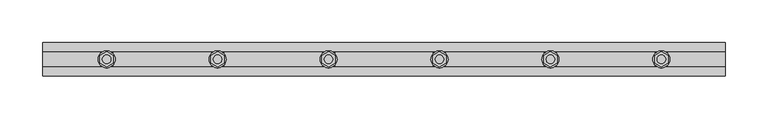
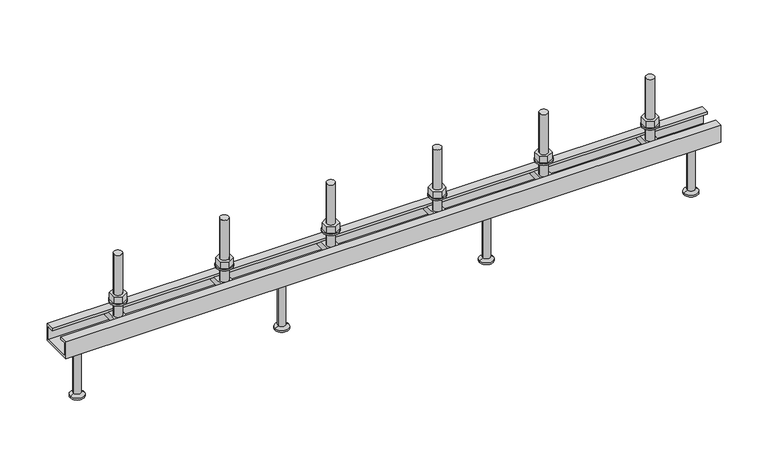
"""IFC4 building model written with IfcOpenShell, lengths in millimetres: fastener geometry, JTA-W JORDAHL® AnchorChannels : JTA-W L=800 mm."""

from ifc_helpers import new_model, si_unit, point, frame, frame_2d, origin, place, context, project, spatial, polyline, circle_curve, trimmed, segment, composite_curve, outline, extrude, source, transform, mapped, element, save
from ifc_brep_helpers import plane_surface, cylinder_surface, revolved_surface, advanced_brep


def fastener_f3e18b2c(model_context):
    return source(origin(), model_context, "Body", "SolidModel", [
        extrude(outline(polyline([(595.0, 9.2376043), (603.0, 4.6188022), (603.0, -4.6188022), (595.0, -9.2376043), (587.0, -4.6188022), (587.0, 4.6188022), (595.0, 9.2376043)]), holes=[composite_curve([segment(trimmed(circle_curve(frame_2d((595.0, 0.0)), 5.0), [point((590.0, 0.0))], [point((600.0, 0.0))], True, "CARTESIAN"), True, "CONTINUOUS"), segment(trimmed(circle_curve(frame_2d((595.0, 0.0)), 5.0), [point((600.0, 0.0))], [point((590.0, 0.0))], True, "CARTESIAN"), True, "CONTINUOUS")], self_intersect=False)]), frame((0.0, 0.0, 17.0), z_axis=(0.0, 0.0, 1.0), x_axis=(1.0, 0.0, 0.0)), (0.0, 0.0, 1.0), 8.4),
        extrude(outline(composite_curve([segment(trimmed(circle_curve(frame_2d((595.0, 0.0)), 10.0), [point((585.0, 0.0))], [point((605.0, 0.0))], False, "CARTESIAN"), True, "CONTINUOUS"), segment(trimmed(circle_curve(frame_2d((595.0, 0.0)), 10.0), [point((605.0, 0.0))], [point((585.0, 0.0))], False, "CARTESIAN"), True, "CONTINUOUS")], self_intersect=False), holes=[composite_curve([segment(trimmed(circle_curve(frame_2d((595.0, 0.0)), 5.25), [point((589.75, 0.0))], [point((600.25, 0.0))], True, "CARTESIAN"), True, "CONTINUOUS"), segment(trimmed(circle_curve(frame_2d((595.0, 0.0)), 5.25), [point((600.25, 0.0))], [point((589.75, 0.0))], True, "CARTESIAN"), True, "CONTINUOUS")], self_intersect=False)]), frame((0.0, 0.0, 15.0), z_axis=(0.0, 0.0, 1.0), x_axis=(1.0, 0.0, 0.0)), (0.0, 0.0, 1.0), 2.0),
        extrude(outline(polyline([(465.0, 9.2376043), (473.0, 4.6188022), (473.0, -4.6188022), (465.0, -9.2376043), (457.0, -4.6188022), (457.0, 4.6188022), (465.0, 9.2376043)]), holes=[composite_curve([segment(trimmed(circle_curve(frame_2d((465.0, 0.0)), 5.0), [point((460.0, 0.0))], [point((470.0, 0.0))], True, "CARTESIAN"), True, "CONTINUOUS"), segment(trimmed(circle_curve(frame_2d((465.0, 0.0)), 5.0), [point((470.0, 0.0))], [point((460.0, 0.0))], True, "CARTESIAN"), True, "CONTINUOUS")], self_intersect=False)]), frame((0.0, 0.0, 17.0), z_axis=(0.0, 0.0, 1.0), x_axis=(1.0, 0.0, 0.0)), (0.0, 0.0, 1.0), 8.4),
        extrude(outline(composite_curve([segment(trimmed(circle_curve(frame_2d((465.0, 0.0)), 10.0), [point((455.0, 0.0))], [point((475.0, 0.0))], False, "CARTESIAN"), True, "CONTINUOUS"), segment(trimmed(circle_curve(frame_2d((465.0, 0.0)), 10.0), [point((475.0, 0.0))], [point((455.0, 0.0))], False, "CARTESIAN"), True, "CONTINUOUS")], self_intersect=False), holes=[composite_curve([segment(trimmed(circle_curve(frame_2d((465.0, 0.0)), 5.25), [point((459.75, 0.0))], [point((470.25, 0.0))], True, "CARTESIAN"), True, "CONTINUOUS"), segment(trimmed(circle_curve(frame_2d((465.0, 0.0)), 5.25), [point((470.25, 0.0))], [point((459.75, 0.0))], True, "CARTESIAN"), True, "CONTINUOUS")], self_intersect=False)]), frame((0.0, 0.0, 15.0), z_axis=(0.0, 0.0, 1.0), x_axis=(1.0, 0.0, 0.0)), (0.0, 0.0, 1.0), 2.0),
        extrude(outline(polyline([(335.0, 9.2376043), (343.0, 4.6188022), (343.0, -4.6188022), (335.0, -9.2376043), (327.0, -4.6188022), (327.0, 4.6188022), (335.0, 9.2376043)]), holes=[composite_curve([segment(trimmed(circle_curve(frame_2d((335.0, 0.0)), 5.0), [point((330.0, 0.0))], [point((340.0, 0.0))], True, "CARTESIAN"), True, "CONTINUOUS"), segment(trimmed(circle_curve(frame_2d((335.0, 0.0)), 5.0), [point((340.0, 0.0))], [point((330.0, 0.0))], True, "CARTESIAN"), True, "CONTINUOUS")], self_intersect=False)]), frame((0.0, 0.0, 17.0), z_axis=(0.0, 0.0, 1.0), x_axis=(1.0, 0.0, 0.0)), (0.0, 0.0, 1.0), 8.4),
        extrude(outline(composite_curve([segment(trimmed(circle_curve(frame_2d((335.0, 0.0)), 10.0), [point((325.0, 0.0))], [point((345.0, 0.0))], False, "CARTESIAN"), True, "CONTINUOUS"), segment(trimmed(circle_curve(frame_2d((335.0, 0.0)), 10.0), [point((345.0, 0.0))], [point((325.0, 0.0))], False, "CARTESIAN"), True, "CONTINUOUS")], self_intersect=False), holes=[composite_curve([segment(trimmed(circle_curve(frame_2d((335.0, 0.0)), 5.25), [point((329.75, 0.0))], [point((340.25, 0.0))], True, "CARTESIAN"), True, "CONTINUOUS"), segment(trimmed(circle_curve(frame_2d((335.0, 0.0)), 5.25), [point((340.25, 0.0))], [point((329.75, 0.0))], True, "CARTESIAN"), True, "CONTINUOUS")], self_intersect=False)]), frame((0.0, 0.0, 15.0), z_axis=(0.0, 0.0, 1.0), x_axis=(1.0, 0.0, 0.0)), (0.0, 0.0, 1.0), 2.0),
        extrude(outline(polyline([(205.0, 9.2376043), (213.0, 4.6188022), (213.0, -4.6188022), (205.0, -9.2376043), (197.0, -4.6188022), (197.0, 4.6188022), (205.0, 9.2376043)]), holes=[composite_curve([segment(trimmed(circle_curve(frame_2d((205.0, 0.0)), 5.0), [point((200.0, 0.0))], [point((210.0, 0.0))], True, "CARTESIAN"), True, "CONTINUOUS"), segment(trimmed(circle_curve(frame_2d((205.0, 0.0)), 5.0), [point((210.0, 0.0))], [point((200.0, 0.0))], True, "CARTESIAN"), True, "CONTINUOUS")], self_intersect=False)]), frame((0.0, 0.0, 17.0), z_axis=(0.0, 0.0, 1.0), x_axis=(1.0, 0.0, 0.0)), (0.0, 0.0, 1.0), 8.4),
        extrude(outline(composite_curve([segment(trimmed(circle_curve(frame_2d((205.0, 0.0)), 10.0), [point((195.0, 0.0))], [point((215.0, 0.0))], False, "CARTESIAN"), True, "CONTINUOUS"), segment(trimmed(circle_curve(frame_2d((205.0, 0.0)), 10.0), [point((215.0, 0.0))], [point((195.0, 0.0))], False, "CARTESIAN"), True, "CONTINUOUS")], self_intersect=False), holes=[composite_curve([segment(trimmed(circle_curve(frame_2d((205.0, 0.0)), 5.25), [point((199.75, 0.0))], [point((210.25, 0.0))], True, "CARTESIAN"), True, "CONTINUOUS"), segment(trimmed(circle_curve(frame_2d((205.0, 0.0)), 5.25), [point((210.25, 0.0))], [point((199.75, 0.0))], True, "CARTESIAN"), True, "CONTINUOUS")], self_intersect=False)]), frame((0.0, 0.0, 15.0), z_axis=(0.0, 0.0, 1.0), x_axis=(1.0, 0.0, 0.0)), (0.0, 0.0, 1.0), 2.0),
        advanced_brep(
        [(602.0, 16.25, -3.0), (602.0, -16.25, -3.0), (602.0, -16.25, -11.0), (602.0, 16.25, -11.0), (588.0, 16.25, -3.0), (588.0, 16.25, -11.0), (588.0, -16.25, -11.0), (588.0, -16.25, -3.0), (600.0, 0.0, -3.0), (590.0, 0.0, -3.0), (590.0, 0.0, 77.0), (600.0, 0.0, 77.0)],
        [
            (0, 1),
            (1, 2),
            (2, 3),
            (3, 0),
            (4, 5),
            (5, 6),
            (6, 7),
            (7, 4),
            (0, 4),
            (7, 1),
            (8, 9, circle_curve(frame((595.0, 0.0, -3.0), z_axis=(0.0, 0.0, -1.0), x_axis=(1.0, 0.0, 0.0)), 5.0)),
            (9, 8, circle_curve(frame((595.0, 0.0, -3.0), z_axis=(0.0, 0.0, -1.0), x_axis=(1.0, 0.0, 0.0)), 5.0)),
            (6, 2),
            (5, 3),
            (10, 11, circle_curve(frame((595.0, 0.0, 77.0), z_axis=(0.0, 0.0, 1.0), x_axis=(1.0, 0.0, 0.0)), 5.0)),
            (11, 10, circle_curve(frame((595.0, 0.0, 77.0), z_axis=(0.0, 0.0, 1.0), x_axis=(1.0, 0.0, 0.0)), 5.0)),
            (10, 9),
            (8, 11),
        ],
        [
            plane_surface(frame((602.0, -16.25, -3.0), z_axis=(1.0, 0.0, 0.0), x_axis=(0.0, -1.0, 0.0))),
            plane_surface(frame((588.0, -16.25, -3.0), z_axis=(-1.0, 0.0, 0.0), x_axis=(0.0, 1.0, 0.0))),
            plane_surface(frame((602.0, 16.25, -3.0), z_axis=(0.0, 0.0, 1.0), x_axis=(-1.0, 0.0, 0.0))),
            plane_surface(frame((602.0, -16.25, -3.0), z_axis=(0.0, -1.0, 0.0), x_axis=(-1.0, 0.0, 0.0))),
            plane_surface(frame((602.0, -16.25, -11.0), z_axis=(0.0, 0.0, -1.0), x_axis=(-1.0, 0.0, 0.0))),
            plane_surface(frame((602.0, 16.25, -11.0), z_axis=(0.0, 1.0, 0.0), x_axis=(-1.0, 0.0, 0.0))),
            plane_surface(frame((600.0, 0.0, 77.0), z_axis=(0.0, 0.0, 1.0), x_axis=(0.0, 1.0, 0.0))),
            cylinder_surface(frame((595.0, 0.0, -3.0), z_axis=(0.0, 0.0, 1.0), x_axis=(1.0, 0.0, 0.0)), 5.0),
        ],
        [
            (0, [[1, 2, 3, 4]]),
            (1, [[5, 6, 7, 8]]),
            (2, [[-1, 9, -8, 10], [11, 12]]),
            (3, [[-2, -10, -7, 13]]),
            (4, [[-3, -13, -6, 14]]),
            (5, [[-4, -14, -5, -9]]),
            (6, [[15, 16]]),
            (7, [[-15, 17, -11, 18]]),
            (7, [[-16, -18, -12, -17]]),
        ],
    ),
        advanced_brep(
        [(472.0, 16.25, -3.0), (472.0, -16.25, -3.0), (472.0, -16.25, -11.0), (472.0, 16.25, -11.0), (458.0, 16.25, -3.0), (458.0, 16.25, -11.0), (458.0, -16.25, -11.0), (458.0, -16.25, -3.0), (470.0, 0.0, -3.0), (460.0, 0.0, -3.0), (460.0, 0.0, 77.0), (470.0, 0.0, 77.0)],
        [
            (0, 1),
            (1, 2),
            (2, 3),
            (3, 0),
            (4, 5),
            (5, 6),
            (6, 7),
            (7, 4),
            (0, 4),
            (7, 1),
            (8, 9, circle_curve(frame((465.0, 0.0, -3.0), z_axis=(0.0, 0.0, -1.0), x_axis=(1.0, 0.0, 0.0)), 5.0)),
            (9, 8, circle_curve(frame((465.0, 0.0, -3.0), z_axis=(0.0, 0.0, -1.0), x_axis=(1.0, 0.0, 0.0)), 5.0)),
            (6, 2),
            (5, 3),
            (10, 11, circle_curve(frame((465.0, 0.0, 77.0), z_axis=(0.0, 0.0, 1.0), x_axis=(1.0, 0.0, 0.0)), 5.0)),
            (11, 10, circle_curve(frame((465.0, 0.0, 77.0), z_axis=(0.0, 0.0, 1.0), x_axis=(1.0, 0.0, 0.0)), 5.0)),
            (10, 9),
            (8, 11),
        ],
        [
            plane_surface(frame((472.0, -16.25, -3.0), z_axis=(1.0, 0.0, 0.0), x_axis=(0.0, -1.0, 0.0))),
            plane_surface(frame((458.0, -16.25, -3.0), z_axis=(-1.0, 0.0, 0.0), x_axis=(0.0, 1.0, 0.0))),
            plane_surface(frame((472.0, 16.25, -3.0), z_axis=(0.0, 0.0, 1.0), x_axis=(-1.0, 0.0, 0.0))),
            plane_surface(frame((472.0, -16.25, -3.0), z_axis=(0.0, -1.0, 0.0), x_axis=(-1.0, 0.0, 0.0))),
            plane_surface(frame((472.0, -16.25, -11.0), z_axis=(0.0, 0.0, -1.0), x_axis=(-1.0, 0.0, 0.0))),
            plane_surface(frame((472.0, 16.25, -11.0), z_axis=(0.0, 1.0, 0.0), x_axis=(-1.0, 0.0, 0.0))),
            plane_surface(frame((470.0, 0.0, 77.0), z_axis=(0.0, 0.0, 1.0), x_axis=(0.0, 1.0, 0.0))),
            cylinder_surface(frame((465.0, 0.0, -3.0), z_axis=(0.0, 0.0, 1.0), x_axis=(1.0, 0.0, 0.0)), 5.0),
        ],
        [
            (0, [[1, 2, 3, 4]]),
            (1, [[5, 6, 7, 8]]),
            (2, [[-1, 9, -8, 10], [11, 12]]),
            (3, [[-2, -10, -7, 13]]),
            (4, [[-3, -13, -6, 14]]),
            (5, [[-4, -14, -5, -9]]),
            (6, [[15, 16]]),
            (7, [[-15, 17, -11, 18]]),
            (7, [[-16, -18, -12, -17]]),
        ],
    ),
        advanced_brep(
        [(342.0, 16.25, -3.0), (342.0, -16.25, -3.0), (342.0, -16.25, -11.0), (342.0, 16.25, -11.0), (328.0, 16.25, -3.0), (328.0, 16.25, -11.0), (328.0, -16.25, -11.0), (328.0, -16.25, -3.0), (340.0, 0.0, -3.0), (330.0, 0.0, -3.0), (330.0, 0.0, 77.0), (340.0, 0.0, 77.0)],
        [
            (0, 1),
            (1, 2),
            (2, 3),
            (3, 0),
            (4, 5),
            (5, 6),
            (6, 7),
            (7, 4),
            (0, 4),
            (7, 1),
            (8, 9, circle_curve(frame((335.0, 0.0, -3.0), z_axis=(0.0, 0.0, -1.0), x_axis=(1.0, 0.0, 0.0)), 5.0)),
            (9, 8, circle_curve(frame((335.0, 0.0, -3.0), z_axis=(0.0, 0.0, -1.0), x_axis=(1.0, 0.0, 0.0)), 5.0)),
            (6, 2),
            (5, 3),
            (10, 11, circle_curve(frame((335.0, 0.0, 77.0), z_axis=(0.0, 0.0, 1.0), x_axis=(1.0, 0.0, 0.0)), 5.0)),
            (11, 10, circle_curve(frame((335.0, 0.0, 77.0), z_axis=(0.0, 0.0, 1.0), x_axis=(1.0, 0.0, 0.0)), 5.0)),
            (10, 9),
            (8, 11),
        ],
        [
            plane_surface(frame((342.0, -16.25, -3.0), z_axis=(1.0, 0.0, 0.0), x_axis=(0.0, -1.0, 0.0))),
            plane_surface(frame((328.0, -16.25, -3.0), z_axis=(-1.0, 0.0, 0.0), x_axis=(0.0, 1.0, 0.0))),
            plane_surface(frame((342.0, 16.25, -3.0), z_axis=(0.0, 0.0, 1.0), x_axis=(-1.0, 0.0, 0.0))),
            plane_surface(frame((342.0, -16.25, -3.0), z_axis=(0.0, -1.0, 0.0), x_axis=(-1.0, 0.0, 0.0))),
            plane_surface(frame((342.0, -16.25, -11.0), z_axis=(0.0, 0.0, -1.0), x_axis=(-1.0, 0.0, 0.0))),
            plane_surface(frame((342.0, 16.25, -11.0), z_axis=(0.0, 1.0, 0.0), x_axis=(-1.0, 0.0, 0.0))),
            plane_surface(frame((340.0, 0.0, 77.0), z_axis=(0.0, 0.0, 1.0), x_axis=(0.0, 1.0, 0.0))),
            cylinder_surface(frame((335.0, 0.0, -3.0), z_axis=(0.0, 0.0, 1.0), x_axis=(1.0, 0.0, 0.0)), 5.0),
        ],
        [
            (0, [[1, 2, 3, 4]]),
            (1, [[5, 6, 7, 8]]),
            (2, [[-1, 9, -8, 10], [11, 12]]),
            (3, [[-2, -10, -7, 13]]),
            (4, [[-3, -13, -6, 14]]),
            (5, [[-4, -14, -5, -9]]),
            (6, [[15, 16]]),
            (7, [[-15, 17, -11, 18]]),
            (7, [[-16, -18, -12, -17]]),
        ],
    ),
        advanced_brep(
        [(212.0, 16.25, -3.0), (212.0, -16.25, -3.0), (212.0, -16.25, -11.0), (212.0, 16.25, -11.0), (198.0, 16.25, -3.0), (198.0, 16.25, -11.0), (198.0, -16.25, -11.0), (198.0, -16.25, -3.0), (210.0, 0.0, -3.0), (200.0, 0.0, -3.0), (200.0, 0.0, 77.0), (210.0, 0.0, 77.0)],
        [
            (0, 1),
            (1, 2),
            (2, 3),
            (3, 0),
            (4, 5),
            (5, 6),
            (6, 7),
            (7, 4),
            (0, 4),
            (7, 1),
            (8, 9, circle_curve(frame((205.0, 0.0, -3.0), z_axis=(0.0, 0.0, -1.0), x_axis=(1.0, 0.0, 0.0)), 5.0)),
            (9, 8, circle_curve(frame((205.0, 0.0, -3.0), z_axis=(0.0, 0.0, -1.0), x_axis=(1.0, 0.0, 0.0)), 5.0)),
            (6, 2),
            (5, 3),
            (10, 11, circle_curve(frame((205.0, 0.0, 77.0), z_axis=(0.0, 0.0, 1.0), x_axis=(1.0, 0.0, 0.0)), 5.0)),
            (11, 10, circle_curve(frame((205.0, 0.0, 77.0), z_axis=(0.0, 0.0, 1.0), x_axis=(1.0, 0.0, 0.0)), 5.0)),
            (10, 9),
            (8, 11),
        ],
        [
            plane_surface(frame((212.0, -16.25, -3.0), z_axis=(1.0, 0.0, 0.0), x_axis=(0.0, -1.0, 0.0))),
            plane_surface(frame((198.0, -16.25, -3.0), z_axis=(-1.0, 0.0, 0.0), x_axis=(0.0, 1.0, 0.0))),
            plane_surface(frame((212.0, 16.25, -3.0), z_axis=(0.0, 0.0, 1.0), x_axis=(-1.0, 0.0, 0.0))),
            plane_surface(frame((212.0, -16.25, -3.0), z_axis=(0.0, -1.0, 0.0), x_axis=(-1.0, 0.0, 0.0))),
            plane_surface(frame((212.0, -16.25, -11.0), z_axis=(0.0, 0.0, -1.0), x_axis=(-1.0, 0.0, 0.0))),
            plane_surface(frame((212.0, 16.25, -11.0), z_axis=(0.0, 1.0, 0.0), x_axis=(-1.0, 0.0, 0.0))),
            plane_surface(frame((210.0, 0.0, 77.0), z_axis=(0.0, 0.0, 1.0), x_axis=(0.0, 1.0, 0.0))),
            cylinder_surface(frame((205.0, 0.0, -3.0), z_axis=(0.0, 0.0, 1.0), x_axis=(1.0, 0.0, 0.0)), 5.0),
        ],
        [
            (0, [[1, 2, 3, 4]]),
            (1, [[5, 6, 7, 8]]),
            (2, [[-1, 9, -8, 10], [11, 12]]),
            (3, [[-2, -10, -7, 13]]),
            (4, [[-3, -13, -6, 14]]),
            (5, [[-4, -14, -5, -9]]),
            (6, [[15, 16]]),
            (7, [[-15, 17, -11, 18]]),
            (7, [[-16, -18, -12, -17]]),
        ],
    ),
        advanced_brep(
        [(525.0, 0.0, -22.0), (538.5, 0.0, -22.0), (511.5, 0.0, -22.0), (516.5, 0.0, -90.0), (533.5, 0.0, -90.0), (525.0, 0.0, -90.0), (516.5, 0.0, -88.0), (533.5, 0.0, -88.0), (520.5, 0.0, -85.6905989), (529.5, 0.0, -85.6905989), (520.5, 0.0, -24.5), (529.5, 0.0, -24.5)],
        [
            (0, 1),
            (1, 2, circle_curve(frame((525.0, 0.0, -22.0), z_axis=(0.0, 0.0, 1.0), x_axis=(1.0, 0.0, 0.0)), 13.5)),
            (2, 0),
            (2, 1, circle_curve(frame((525.0, 0.0, -22.0), z_axis=(0.0, 0.0, 1.0), x_axis=(1.0, 0.0, 0.0)), 13.5)),
            (3, 4, circle_curve(frame((525.0, 0.0, -90.0), z_axis=(0.0, 0.0, -1.0), x_axis=(1.0, 0.0, 0.0)), 8.5)),
            (4, 5),
            (5, 3),
            (4, 3, circle_curve(frame((525.0, 0.0, -90.0), z_axis=(0.0, 0.0, -1.0), x_axis=(1.0, 0.0, 0.0)), 8.5)),
            (6, 7, circle_curve(frame((525.0, 0.0, -88.0), z_axis=(0.0, 0.0, -1.0), x_axis=(1.0, 0.0, 0.0)), 8.5)),
            (7, 4),
            (3, 6),
            (7, 6, circle_curve(frame((525.0, 0.0, -88.0), z_axis=(0.0, 0.0, -1.0), x_axis=(1.0, 0.0, 0.0)), 8.5)),
            (8, 9, circle_curve(frame((525.0, 0.0, -85.6905989), z_axis=(0.0, 0.0, -1.0), x_axis=(1.0, 0.0, 0.0)), 4.5)),
            (9, 7),
            (6, 8),
            (9, 8, circle_curve(frame((525.0, 0.0, -85.6905989), z_axis=(0.0, 0.0, -1.0), x_axis=(1.0, 0.0, 0.0)), 4.5)),
            (10, 11, circle_curve(frame((525.0, 0.0, -24.5), z_axis=(0.0, 0.0, -1.0), x_axis=(1.0, 0.0, 0.0)), 4.5)),
            (11, 9),
            (8, 10),
            (11, 10, circle_curve(frame((525.0, 0.0, -24.5), z_axis=(0.0, 0.0, -1.0), x_axis=(1.0, 0.0, 0.0)), 4.5)),
            (1, 11),
            (10, 2),
        ],
        [
            plane_surface(frame((525.0, 0.0, -22.0), z_axis=(0.0, 0.0, 1.0), x_axis=(1.0, 0.0, 0.0))),
            plane_surface(frame((525.0, 0.0, -90.0), z_axis=(0.0, 0.0, -1.0), x_axis=(1.0, 0.0, 0.0))),
            cylinder_surface(frame((525.0, 0.0, 2282.3150031), z_axis=(0.0, 0.0, 1.0), x_axis=(1.0, 0.0, 0.0)), 8.5),
            revolved_surface(polyline([(533.5, 0.0, -88.0), (529.5, 0.0, -85.6905989)]), (525.0, 0.0, 2282.3150031), (0.0, 0.0, 1.0)),
            cylinder_surface(frame((525.0, 0.0, 2282.3150031), z_axis=(0.0, 0.0, 1.0), x_axis=(1.0, 0.0, 0.0)), 4.5),
            revolved_surface(polyline([(529.5, 0.0, -24.5), (538.5, 0.0, -22.0)]), (525.0, 0.0, 2282.3150031), (0.0, 0.0, 1.0)),
        ],
        [
            (0, [[1, 2, 3]]),
            (0, [[-3, 4, -1]]),
            (1, [[5, 6, 7]]),
            (1, [[8, -7, -6]]),
            (2, [[9, 10, -5, 11]]),
            (2, [[12, -11, -8, -10]]),
            (3, [[13, 14, -9, 15]]),
            (3, [[16, -15, -12, -14]]),
            (4, [[17, 18, -13, 19]]),
            (4, [[20, -19, -16, -18]]),
            (5, [[-2, 21, -17, 22]]),
            (5, [[-4, -22, -20, -21]]),
        ],
    ),
        advanced_brep(
        [(275.0, 0.0, -22.0), (288.5, 0.0, -22.0), (261.5, 0.0, -22.0), (266.5, 0.0, -90.0), (283.5, 0.0, -90.0), (275.0, 0.0, -90.0), (266.5, 0.0, -88.0), (283.5, 0.0, -88.0), (270.5, 0.0, -85.6905989), (279.5, 0.0, -85.6905989), (270.5, 0.0, -24.5), (279.5, 0.0, -24.5)],
        [
            (0, 1),
            (1, 2, circle_curve(frame((275.0, 0.0, -22.0), z_axis=(0.0, 0.0, 1.0), x_axis=(1.0, 0.0, 0.0)), 13.5)),
            (2, 0),
            (2, 1, circle_curve(frame((275.0, 0.0, -22.0), z_axis=(0.0, 0.0, 1.0), x_axis=(1.0, 0.0, 0.0)), 13.5)),
            (3, 4, circle_curve(frame((275.0, 0.0, -90.0), z_axis=(0.0, 0.0, -1.0), x_axis=(1.0, 0.0, 0.0)), 8.5)),
            (4, 5),
            (5, 3),
            (4, 3, circle_curve(frame((275.0, 0.0, -90.0), z_axis=(0.0, 0.0, -1.0), x_axis=(1.0, 0.0, 0.0)), 8.5)),
            (6, 7, circle_curve(frame((275.0, 0.0, -88.0), z_axis=(0.0, 0.0, -1.0), x_axis=(1.0, 0.0, 0.0)), 8.5)),
            (7, 4),
            (3, 6),
            (7, 6, circle_curve(frame((275.0, 0.0, -88.0), z_axis=(0.0, 0.0, -1.0), x_axis=(1.0, 0.0, 0.0)), 8.5)),
            (8, 9, circle_curve(frame((275.0, 0.0, -85.6905989), z_axis=(0.0, 0.0, -1.0), x_axis=(1.0, 0.0, 0.0)), 4.5)),
            (9, 7),
            (6, 8),
            (9, 8, circle_curve(frame((275.0, 0.0, -85.6905989), z_axis=(0.0, 0.0, -1.0), x_axis=(1.0, 0.0, 0.0)), 4.5)),
            (10, 11, circle_curve(frame((275.0, 0.0, -24.5), z_axis=(0.0, 0.0, -1.0), x_axis=(1.0, 0.0, 0.0)), 4.5)),
            (11, 9),
            (8, 10),
            (11, 10, circle_curve(frame((275.0, 0.0, -24.5), z_axis=(0.0, 0.0, -1.0), x_axis=(1.0, 0.0, 0.0)), 4.5)),
            (1, 11),
            (10, 2),
        ],
        [
            plane_surface(frame((275.0, 0.0, -22.0), z_axis=(0.0, 0.0, 1.0), x_axis=(1.0, 0.0, 0.0))),
            plane_surface(frame((275.0, 0.0, -90.0), z_axis=(0.0, 0.0, -1.0), x_axis=(1.0, 0.0, 0.0))),
            cylinder_surface(frame((275.0, 0.0, 2282.3150031), z_axis=(0.0, 0.0, 1.0), x_axis=(1.0, 0.0, 0.0)), 8.5),
            revolved_surface(polyline([(283.5, 0.0, -88.0), (279.5, 0.0, -85.6905989)]), (275.0, 0.0, 2282.3150031), (0.0, 0.0, 1.0)),
            cylinder_surface(frame((275.0, 0.0, 2282.3150031), z_axis=(0.0, 0.0, 1.0), x_axis=(1.0, 0.0, 0.0)), 4.5),
            revolved_surface(polyline([(279.5, 0.0, -24.5), (288.5, 0.0, -22.0)]), (275.0, 0.0, 2282.3150031), (0.0, 0.0, 1.0)),
        ],
        [
            (0, [[1, 2, 3]]),
            (0, [[-3, 4, -1]]),
            (1, [[5, 6, 7]]),
            (1, [[8, -7, -6]]),
            (2, [[9, 10, -5, 11]]),
            (2, [[12, -11, -8, -10]]),
            (3, [[13, 14, -9, 15]]),
            (3, [[16, -15, -12, -14]]),
            (4, [[17, 18, -13, 19]]),
            (4, [[20, -19, -16, -18]]),
            (5, [[-2, 21, -17, 22]]),
            (5, [[-4, -22, -20, -21]]),
        ],
    ),
        extrude(outline(polyline([(725.0, 9.2376043), (733.0, 4.6188022), (733.0, -4.6188022), (725.0, -9.2376043), (717.0, -4.6188022), (717.0, 4.6188022), (725.0, 9.2376043)]), holes=[composite_curve([segment(trimmed(circle_curve(frame_2d((725.0, 0.0)), 5.0), [point((720.0, 0.0))], [point((730.0, 0.0))], True, "CARTESIAN"), True, "CONTINUOUS"), segment(trimmed(circle_curve(frame_2d((725.0, 0.0)), 5.0), [point((730.0, 0.0))], [point((720.0, 0.0))], True, "CARTESIAN"), True, "CONTINUOUS")], self_intersect=False)]), frame((0.0, 0.0, 17.0), z_axis=(0.0, 0.0, 1.0), x_axis=(1.0, 0.0, 0.0)), (0.0, 0.0, 1.0), 8.4),
        extrude(outline(composite_curve([segment(trimmed(circle_curve(frame_2d((725.0, 0.0)), 10.0), [point((715.0, 0.0))], [point((735.0, 0.0))], False, "CARTESIAN"), True, "CONTINUOUS"), segment(trimmed(circle_curve(frame_2d((725.0, 0.0)), 10.0), [point((735.0, 0.0))], [point((715.0, 0.0))], False, "CARTESIAN"), True, "CONTINUOUS")], self_intersect=False), holes=[composite_curve([segment(trimmed(circle_curve(frame_2d((725.0, 0.0)), 5.25), [point((719.75, 0.0))], [point((730.25, 0.0))], True, "CARTESIAN"), True, "CONTINUOUS"), segment(trimmed(circle_curve(frame_2d((725.0, 0.0)), 5.25), [point((730.25, 0.0))], [point((719.75, 0.0))], True, "CARTESIAN"), True, "CONTINUOUS")], self_intersect=False)]), frame((0.0, 0.0, 15.0), z_axis=(0.0, 0.0, 1.0), x_axis=(1.0, 0.0, 0.0)), (0.0, 0.0, 1.0), 2.0),
        extrude(outline(polyline([(75.0, 9.2376043), (83.0, 4.6188022), (83.0, -4.6188022), (75.0, -9.2376043), (67.0, -4.6188022), (67.0, 4.6188022), (75.0, 9.2376043)]), holes=[composite_curve([segment(trimmed(circle_curve(frame_2d((75.0, 0.0)), 5.0), [point((70.0, 0.0))], [point((80.0, 0.0))], True, "CARTESIAN"), True, "CONTINUOUS"), segment(trimmed(circle_curve(frame_2d((75.0, 0.0)), 5.0), [point((80.0, 0.0))], [point((70.0, 0.0))], True, "CARTESIAN"), True, "CONTINUOUS")], self_intersect=False)]), frame((0.0, 0.0, 17.0), z_axis=(0.0, 0.0, 1.0), x_axis=(1.0, 0.0, 0.0)), (0.0, 0.0, 1.0), 8.4),
        extrude(outline(composite_curve([segment(trimmed(circle_curve(frame_2d((75.0, 0.0)), 10.0), [point((65.0, 0.0))], [point((85.0, 0.0))], False, "CARTESIAN"), True, "CONTINUOUS"), segment(trimmed(circle_curve(frame_2d((75.0, 0.0)), 10.0), [point((85.0, 0.0))], [point((65.0, 0.0))], False, "CARTESIAN"), True, "CONTINUOUS")], self_intersect=False), holes=[composite_curve([segment(trimmed(circle_curve(frame_2d((75.0, 0.0)), 5.25), [point((69.75, 0.0))], [point((80.25, 0.0))], True, "CARTESIAN"), True, "CONTINUOUS"), segment(trimmed(circle_curve(frame_2d((75.0, 0.0)), 5.25), [point((80.25, 0.0))], [point((69.75, 0.0))], True, "CARTESIAN"), True, "CONTINUOUS")], self_intersect=False)]), frame((0.0, 0.0, 15.0), z_axis=(0.0, 0.0, 1.0), x_axis=(1.0, 0.0, 0.0)), (0.0, 0.0, 1.0), 2.0),
        advanced_brep(
        [(732.0, 16.25, -3.0), (732.0, -16.25, -3.0), (732.0, -16.25, -11.0), (732.0, 16.25, -11.0), (718.0, 16.25, -3.0), (718.0, 16.25, -11.0), (718.0, -16.25, -11.0), (718.0, -16.25, -3.0), (730.0, 0.0, -3.0), (720.0, 0.0, -3.0), (720.0, 0.0, 77.0), (730.0, 0.0, 77.0)],
        [
            (0, 1),
            (1, 2),
            (2, 3),
            (3, 0),
            (4, 5),
            (5, 6),
            (6, 7),
            (7, 4),
            (0, 4),
            (7, 1),
            (8, 9, circle_curve(frame((725.0, 0.0, -3.0), z_axis=(0.0, 0.0, -1.0), x_axis=(1.0, 0.0, 0.0)), 5.0)),
            (9, 8, circle_curve(frame((725.0, 0.0, -3.0), z_axis=(0.0, 0.0, -1.0), x_axis=(1.0, 0.0, 0.0)), 5.0)),
            (6, 2),
            (5, 3),
            (10, 11, circle_curve(frame((725.0, 0.0, 77.0), z_axis=(0.0, 0.0, 1.0), x_axis=(1.0, 0.0, 0.0)), 5.0)),
            (11, 10, circle_curve(frame((725.0, 0.0, 77.0), z_axis=(0.0, 0.0, 1.0), x_axis=(1.0, 0.0, 0.0)), 5.0)),
            (10, 9),
            (8, 11),
        ],
        [
            plane_surface(frame((732.0, -16.25, -3.0), z_axis=(1.0, 0.0, 0.0), x_axis=(0.0, -1.0, 0.0))),
            plane_surface(frame((718.0, -16.25, -3.0), z_axis=(-1.0, 0.0, 0.0), x_axis=(0.0, 1.0, 0.0))),
            plane_surface(frame((732.0, 16.25, -3.0), z_axis=(0.0, 0.0, 1.0), x_axis=(-1.0, 0.0, 0.0))),
            plane_surface(frame((732.0, -16.25, -3.0), z_axis=(0.0, -1.0, 0.0), x_axis=(-1.0, 0.0, 0.0))),
            plane_surface(frame((732.0, -16.25, -11.0), z_axis=(0.0, 0.0, -1.0), x_axis=(-1.0, 0.0, 0.0))),
            plane_surface(frame((732.0, 16.25, -11.0), z_axis=(0.0, 1.0, 0.0), x_axis=(-1.0, 0.0, 0.0))),
            plane_surface(frame((730.0, 0.0, 77.0), z_axis=(0.0, 0.0, 1.0), x_axis=(0.0, 1.0, 0.0))),
            cylinder_surface(frame((725.0, 0.0, -3.0), z_axis=(0.0, 0.0, 1.0), x_axis=(1.0, 0.0, 0.0)), 5.0),
        ],
        [
            (0, [[1, 2, 3, 4]]),
            (1, [[5, 6, 7, 8]]),
            (2, [[-1, 9, -8, 10], [11, 12]]),
            (3, [[-2, -10, -7, 13]]),
            (4, [[-3, -13, -6, 14]]),
            (5, [[-4, -14, -5, -9]]),
            (6, [[15, 16]]),
            (7, [[-15, 17, -11, 18]]),
            (7, [[-16, -18, -12, -17]]),
        ],
    ),
        advanced_brep(
        [(82.0, 16.25, -3.0), (82.0, -16.25, -3.0), (82.0, -16.25, -11.0), (82.0, 16.25, -11.0), (68.0, 16.25, -3.0), (68.0, 16.25, -11.0), (68.0, -16.25, -11.0), (68.0, -16.25, -3.0), (80.0, 0.0, -3.0), (70.0, 0.0, -3.0), (70.0, 0.0, 77.0), (80.0, 0.0, 77.0)],
        [
            (0, 1),
            (1, 2),
            (2, 3),
            (3, 0),
            (4, 5),
            (5, 6),
            (6, 7),
            (7, 4),
            (0, 4),
            (7, 1),
            (8, 9, circle_curve(frame((75.0, 0.0, -3.0), z_axis=(0.0, 0.0, -1.0), x_axis=(1.0, 0.0, 0.0)), 5.0)),
            (9, 8, circle_curve(frame((75.0, 0.0, -3.0), z_axis=(0.0, 0.0, -1.0), x_axis=(1.0, 0.0, 0.0)), 5.0)),
            (6, 2),
            (5, 3),
            (10, 11, circle_curve(frame((75.0, 0.0, 77.0), z_axis=(0.0, 0.0, 1.0), x_axis=(1.0, 0.0, 0.0)), 5.0)),
            (11, 10, circle_curve(frame((75.0, 0.0, 77.0), z_axis=(0.0, 0.0, 1.0), x_axis=(1.0, 0.0, 0.0)), 5.0)),
            (10, 9),
            (8, 11),
        ],
        [
            plane_surface(frame((82.0, -16.25, -3.0), z_axis=(1.0, 0.0, 0.0), x_axis=(0.0, -1.0, 0.0))),
            plane_surface(frame((68.0, -16.25, -3.0), z_axis=(-1.0, 0.0, 0.0), x_axis=(0.0, 1.0, 0.0))),
            plane_surface(frame((82.0, 16.25, -3.0), z_axis=(0.0, 0.0, 1.0), x_axis=(-1.0, 0.0, 0.0))),
            plane_surface(frame((82.0, -16.25, -3.0), z_axis=(0.0, -1.0, 0.0), x_axis=(-1.0, 0.0, 0.0))),
            plane_surface(frame((82.0, -16.25, -11.0), z_axis=(0.0, 0.0, -1.0), x_axis=(-1.0, 0.0, 0.0))),
            plane_surface(frame((82.0, 16.25, -11.0), z_axis=(0.0, 1.0, 0.0), x_axis=(-1.0, 0.0, 0.0))),
            plane_surface(frame((80.0, 0.0, 77.0), z_axis=(0.0, 0.0, 1.0), x_axis=(0.0, 1.0, 0.0))),
            cylinder_surface(frame((75.0, 0.0, -3.0), z_axis=(0.0, 0.0, 1.0), x_axis=(1.0, 0.0, 0.0)), 5.0),
        ],
        [
            (0, [[1, 2, 3, 4]]),
            (1, [[5, 6, 7, 8]]),
            (2, [[-1, 9, -8, 10], [11, 12]]),
            (3, [[-2, -10, -7, 13]]),
            (4, [[-3, -13, -6, 14]]),
            (5, [[-4, -14, -5, -9]]),
            (6, [[15, 16]]),
            (7, [[-15, 17, -11, 18]]),
            (7, [[-16, -18, -12, -17]]),
        ],
    ),
        advanced_brep(
        [(775.0, 0.0, -22.0), (788.5, 0.0, -22.0), (761.5, 0.0, -22.0), (766.5, 0.0, -90.0), (783.5, 0.0, -90.0), (775.0, 0.0, -90.0), (766.5, 0.0, -88.0), (783.5, 0.0, -88.0), (770.5, 0.0, -85.6905989), (779.5, 0.0, -85.6905989), (770.5, 0.0, -24.5), (779.5, 0.0, -24.5)],
        [
            (0, 1),
            (1, 2, circle_curve(frame((775.0, 0.0, -22.0), z_axis=(0.0, 0.0, 1.0), x_axis=(1.0, 0.0, 0.0)), 13.5)),
            (2, 0),
            (2, 1, circle_curve(frame((775.0, 0.0, -22.0), z_axis=(0.0, 0.0, 1.0), x_axis=(1.0, 0.0, 0.0)), 13.5)),
            (3, 4, circle_curve(frame((775.0, 0.0, -90.0), z_axis=(0.0, 0.0, -1.0), x_axis=(1.0, 0.0, 0.0)), 8.5)),
            (4, 5),
            (5, 3),
            (4, 3, circle_curve(frame((775.0, 0.0, -90.0), z_axis=(0.0, 0.0, -1.0), x_axis=(1.0, 0.0, 0.0)), 8.5)),
            (6, 7, circle_curve(frame((775.0, 0.0, -88.0), z_axis=(0.0, 0.0, -1.0), x_axis=(1.0, 0.0, 0.0)), 8.5)),
            (7, 4),
            (3, 6),
            (7, 6, circle_curve(frame((775.0, 0.0, -88.0), z_axis=(0.0, 0.0, -1.0), x_axis=(1.0, 0.0, 0.0)), 8.5)),
            (8, 9, circle_curve(frame((775.0, 0.0, -85.6905989), z_axis=(0.0, 0.0, -1.0), x_axis=(1.0, 0.0, 0.0)), 4.5)),
            (9, 7),
            (6, 8),
            (9, 8, circle_curve(frame((775.0, 0.0, -85.6905989), z_axis=(0.0, 0.0, -1.0), x_axis=(1.0, 0.0, 0.0)), 4.5)),
            (10, 11, circle_curve(frame((775.0, 0.0, -24.5), z_axis=(0.0, 0.0, -1.0), x_axis=(1.0, 0.0, 0.0)), 4.5)),
            (11, 9),
            (8, 10),
            (11, 10, circle_curve(frame((775.0, 0.0, -24.5), z_axis=(0.0, 0.0, -1.0), x_axis=(1.0, 0.0, 0.0)), 4.5)),
            (1, 11),
            (10, 2),
        ],
        [
            plane_surface(frame((775.0, 0.0, -22.0), z_axis=(0.0, 0.0, 1.0), x_axis=(1.0, 0.0, 0.0))),
            plane_surface(frame((775.0, 0.0, -90.0), z_axis=(0.0, 0.0, -1.0), x_axis=(1.0, 0.0, 0.0))),
            cylinder_surface(frame((775.0, 0.0, 2282.3150031), z_axis=(0.0, 0.0, 1.0), x_axis=(1.0, 0.0, 0.0)), 8.5),
            revolved_surface(polyline([(783.5, 0.0, -88.0), (779.5, 0.0, -85.6905989)]), (775.0, 0.0, 2282.3150031), (0.0, 0.0, 1.0)),
            cylinder_surface(frame((775.0, 0.0, 2282.3150031), z_axis=(0.0, 0.0, 1.0), x_axis=(1.0, 0.0, 0.0)), 4.5),
            revolved_surface(polyline([(779.5, 0.0, -24.5), (788.5, 0.0, -22.0)]), (775.0, 0.0, 2282.3150031), (0.0, 0.0, 1.0)),
        ],
        [
            (0, [[1, 2, 3]]),
            (0, [[-3, 4, -1]]),
            (1, [[5, 6, 7]]),
            (1, [[8, -7, -6]]),
            (2, [[9, 10, -5, 11]]),
            (2, [[12, -11, -8, -10]]),
            (3, [[13, 14, -9, 15]]),
            (3, [[16, -15, -12, -14]]),
            (4, [[17, 18, -13, 19]]),
            (4, [[20, -19, -16, -18]]),
            (5, [[-2, 21, -17, 22]]),
            (5, [[-4, -22, -20, -21]]),
        ],
    ),
        advanced_brep(
        [(25.0, 0.0, -22.0), (38.5, 0.0, -22.0), (11.5, 0.0, -22.0), (16.5, 0.0, -90.0), (33.5, 0.0, -90.0), (25.0, 0.0, -90.0), (16.5, 0.0, -88.0), (33.5, 0.0, -88.0), (20.5, 0.0, -85.6905989), (29.5, 0.0, -85.6905989), (20.5, 0.0, -24.5), (29.5, 0.0, -24.5)],
        [
            (0, 1),
            (1, 2, circle_curve(frame((25.0, 0.0, -22.0), z_axis=(0.0, 0.0, 1.0), x_axis=(1.0, 0.0, 0.0)), 13.5)),
            (2, 0),
            (2, 1, circle_curve(frame((25.0, 0.0, -22.0), z_axis=(0.0, 0.0, 1.0), x_axis=(1.0, 0.0, 0.0)), 13.5)),
            (3, 4, circle_curve(frame((25.0, 0.0, -90.0), z_axis=(0.0, 0.0, -1.0), x_axis=(1.0, 0.0, 0.0)), 8.5)),
            (4, 5),
            (5, 3),
            (4, 3, circle_curve(frame((25.0, 0.0, -90.0), z_axis=(0.0, 0.0, -1.0), x_axis=(1.0, 0.0, 0.0)), 8.5)),
            (6, 7, circle_curve(frame((25.0, 0.0, -88.0), z_axis=(0.0, 0.0, -1.0), x_axis=(1.0, 0.0, 0.0)), 8.5)),
            (7, 4),
            (3, 6),
            (7, 6, circle_curve(frame((25.0, 0.0, -88.0), z_axis=(0.0, 0.0, -1.0), x_axis=(1.0, 0.0, 0.0)), 8.5)),
            (8, 9, circle_curve(frame((25.0, 0.0, -85.6905989), z_axis=(0.0, 0.0, -1.0), x_axis=(1.0, 0.0, 0.0)), 4.5)),
            (9, 7),
            (6, 8),
            (9, 8, circle_curve(frame((25.0, 0.0, -85.6905989), z_axis=(0.0, 0.0, -1.0), x_axis=(1.0, 0.0, 0.0)), 4.5)),
            (10, 11, circle_curve(frame((25.0, 0.0, -24.5), z_axis=(0.0, 0.0, -1.0), x_axis=(1.0, 0.0, 0.0)), 4.5)),
            (11, 9),
            (8, 10),
            (11, 10, circle_curve(frame((25.0, 0.0, -24.5), z_axis=(0.0, 0.0, -1.0), x_axis=(1.0, 0.0, 0.0)), 4.5)),
            (1, 11),
            (10, 2),
        ],
        [
            plane_surface(frame((25.0, 0.0, -22.0), z_axis=(0.0, 0.0, 1.0), x_axis=(1.0, 0.0, 0.0))),
            plane_surface(frame((25.0, 0.0, -90.0), z_axis=(0.0, 0.0, -1.0), x_axis=(1.0, 0.0, 0.0))),
            cylinder_surface(frame((25.0, 0.0, 2282.3150031), z_axis=(0.0, 0.0, 1.0), x_axis=(1.0, 0.0, 0.0)), 8.5),
            revolved_surface(polyline([(33.5, 0.0, -88.0), (29.5, 0.0, -85.6905989)]), (25.0, 0.0, 2282.3150031), (0.0, 0.0, 1.0)),
            cylinder_surface(frame((25.0, 0.0, 2282.3150031), z_axis=(0.0, 0.0, 1.0), x_axis=(1.0, 0.0, 0.0)), 4.5),
            revolved_surface(polyline([(29.5, 0.0, -24.5), (38.5, 0.0, -22.0)]), (25.0, 0.0, 2282.3150031), (0.0, 0.0, 1.0)),
        ],
        [
            (0, [[1, 2, 3]]),
            (0, [[-3, 4, -1]]),
            (1, [[5, 6, 7]]),
            (1, [[8, -7, -6]]),
            (2, [[9, 10, -5, 11]]),
            (2, [[12, -11, -8, -10]]),
            (3, [[13, 14, -9, 15]]),
            (3, [[16, -15, -12, -14]]),
            (4, [[17, 18, -13, 19]]),
            (4, [[20, -19, -16, -18]]),
            (5, [[-2, 21, -17, 22]]),
            (5, [[-4, -22, -20, -21]]),
        ],
    ),
        extrude(outline(polyline([(19.75, 0.0), (19.75, -22.0), (-19.75, -22.0), (-19.75, 0.0), (-9.0, 0.0), (-9.0, -3.0), (-17.25, -3.0), (-17.25, -19.5), (17.25, -19.5), (17.25, -3.0), (9.0, -3.0), (9.0, 0.0), (19.75, 0.0)])), frame((0.0, 0.0, 0.0), z_axis=(1.0, 0.0, 0.0), x_axis=(0.0, 1.0, 0.0)), (0.0, 0.0, 1.0), 800.0),
    ])


if __name__ == "__main__":
    model = new_model("IFC4")
    model_context = context("Model", 3, world=origin())
    ifc_project = project(units=[si_unit("LENGTHUNIT", "METRE", prefix="MILLI")], contexts=[model_context])
    site = spatial("IfcSite", under=ifc_project)
    building = spatial("IfcBuilding", under=site)
    placement = place(None, origin())
    fastener_shape = fastener_f3e18b2c(model_context)
    element("IfcFastener", 1, ObjectType="JTA-W JORDAHL® AnchorChannels : JTA-W L=800 mm", at=placement, inside=building, context=model_context, shape_type="MappedRepresentation", body=[
        mapped(fastener_shape, transform((0.0, 0.0, 0.0), x_axis=(1.0, 0.0, 0.0), y_axis=(0.0, 1.0, 0.0), z_axis=(0.0, 0.0, 1.0))),
    ])
    save(model, "model.ifc")
